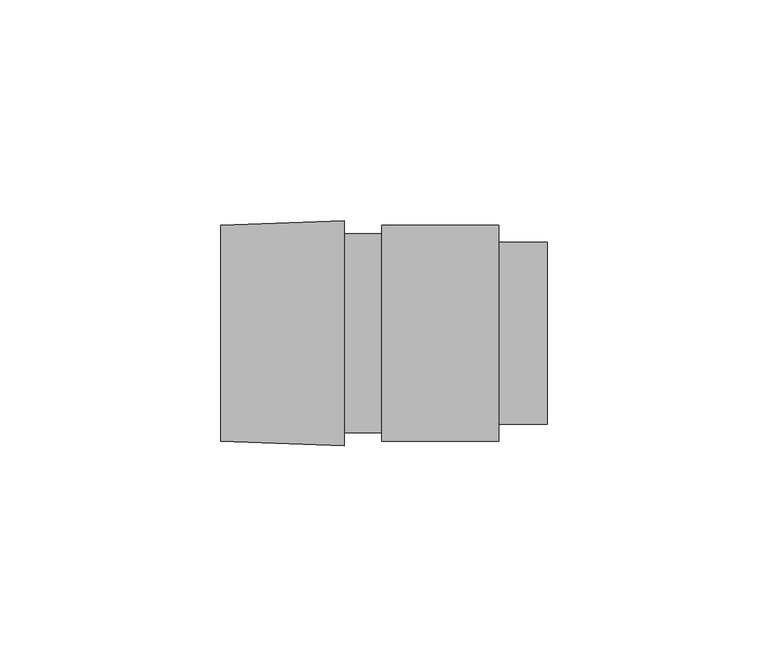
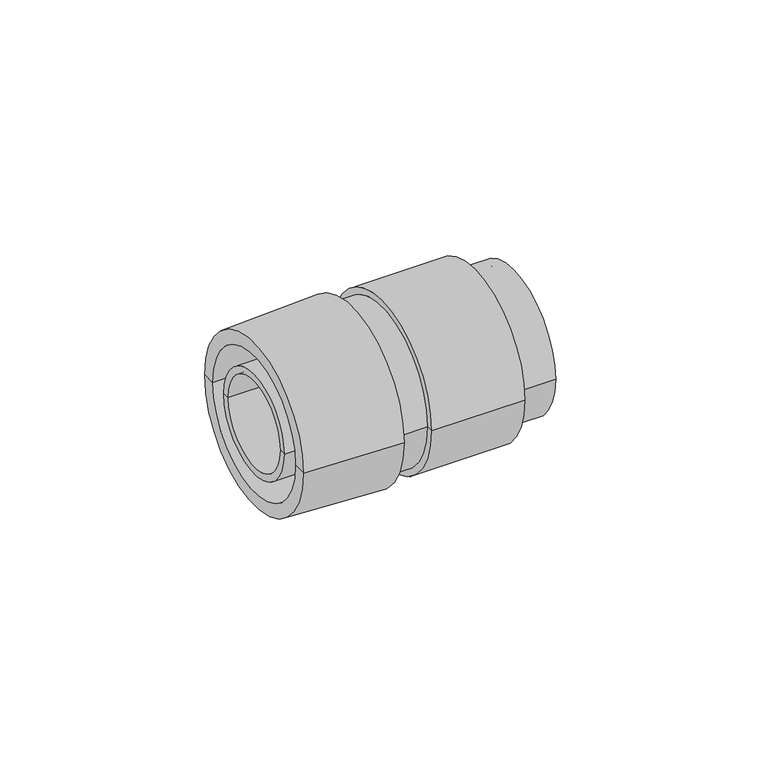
"""IFC4 building model written with IfcOpenShell, lengths in millimetres: cable carrier fitting geometry, КНС_ПереходникАрмированнаяТрубаКоробка_IP65_DKC : Коробка."""

from ifc_helpers import new_model, si_unit, frame, origin, place, context, project, spatial, polyline, circle_curve, source, transform, mapped, element, save
from ifc_brep_helpers import plane_surface, cylinder_surface, revolved_surface, advanced_brep


def cable_carrier_fitting_9b3bb634(model_context):
    return source(origin(), model_context, "Body", "AdvancedBrep", [
        advanced_brep(
        [(46.0, -18.5353846, 0.0), (46.0, 18.5353846, 0.0), (0.0, 18.5353846, 0.0), (0.0, -18.5353846, 0.0), (46.0, -20.6, 0.0), (46.0, 20.6, 0.0), (35.0, -20.6, 0.0), (35.0, 20.6, 0.0), (35.0, -24.5, 0.0), (35.0, 24.5, 0.0), (8.5, -24.5, 0.0), (8.5, 24.5, 0.0), (8.5, -22.55, 0.0), (8.5, 22.55, 0.0), (0.0, -22.55, 0.0), (0.0, 22.55, 0.0)],
        [
            (0, 1, circle_curve(frame((46.0, 0.0, 0.0), z_axis=(1.0, 0.0, 0.0), x_axis=(0.0, 1.0, 0.0)), 18.5353846)),
            (1, 2),
            (2, 3, circle_curve(frame((0.0, 0.0, 0.0), z_axis=(-1.0, 0.0, 0.0), x_axis=(0.0, 1.0, 0.0)), 18.5353846)),
            (3, 0),
            (1, 0, circle_curve(frame((46.0, 0.0, 0.0), z_axis=(1.0, 0.0, 0.0), x_axis=(0.0, 1.0, 0.0)), 18.5353846)),
            (3, 2, circle_curve(frame((0.0, 0.0, 0.0), z_axis=(-1.0, 0.0, 0.0), x_axis=(0.0, 1.0, 0.0)), 18.5353846)),
            (4, 5, circle_curve(frame((46.0, 0.0, 0.0), z_axis=(1.0, 0.0, 0.0), x_axis=(0.0, 1.0, 0.0)), 20.6)),
            (5, 1),
            (0, 4),
            (5, 4, circle_curve(frame((46.0, 0.0, 0.0), z_axis=(1.0, 0.0, 0.0), x_axis=(0.0, 1.0, 0.0)), 20.6)),
            (6, 7, circle_curve(frame((35.0, 0.0, 0.0), z_axis=(1.0, 0.0, 0.0), x_axis=(0.0, 1.0, 0.0)), 20.6)),
            (7, 5),
            (4, 6),
            (7, 6, circle_curve(frame((35.0, 0.0, 0.0), z_axis=(1.0, 0.0, 0.0), x_axis=(0.0, 1.0, 0.0)), 20.6)),
            (8, 9, circle_curve(frame((35.0, 0.0, 0.0), z_axis=(1.0, 0.0, 0.0), x_axis=(0.0, 1.0, 0.0)), 24.5)),
            (9, 7),
            (6, 8),
            (9, 8, circle_curve(frame((35.0, 0.0, 0.0), z_axis=(1.0, 0.0, 0.0), x_axis=(0.0, 1.0, 0.0)), 24.5)),
            (10, 11, circle_curve(frame((8.5, 0.0, 0.0), z_axis=(1.0, 0.0, 0.0), x_axis=(0.0, 1.0, 0.0)), 24.5)),
            (11, 9),
            (8, 10),
            (11, 10, circle_curve(frame((8.5, 0.0, 0.0), z_axis=(1.0, 0.0, 0.0), x_axis=(0.0, 1.0, 0.0)), 24.5)),
            (12, 13, circle_curve(frame((8.5, 0.0, 0.0), z_axis=(1.0, 0.0, 0.0), x_axis=(0.0, 1.0, 0.0)), 22.55)),
            (13, 11),
            (10, 12),
            (13, 12, circle_curve(frame((8.5, 0.0, 0.0), z_axis=(1.0, 0.0, 0.0), x_axis=(0.0, 1.0, 0.0)), 22.55)),
            (14, 15, circle_curve(frame((0.0, 0.0, 0.0), z_axis=(1.0, 0.0, 0.0), x_axis=(0.0, 1.0, 0.0)), 22.55)),
            (15, 13),
            (12, 14),
            (15, 14, circle_curve(frame((0.0, 0.0, 0.0), z_axis=(1.0, 0.0, 0.0), x_axis=(0.0, 1.0, 0.0)), 22.55)),
            (2, 15),
            (14, 3),
        ],
        [
            revolved_surface(polyline([(0.0, 18.5353846, 0.0), (46.0, 18.5353846, 0.0)]), (1534.5, 0.0, 0.0), (-1.0, 0.0, 0.0)),
            plane_surface(frame((46.0, 0.0, 0.0), z_axis=(1.0, 0.0, 0.0), x_axis=(0.0, 1.0, 0.0))),
            cylinder_surface(frame((1534.5, 0.0, 0.0), z_axis=(-1.0, 0.0, 0.0), x_axis=(0.0, 1.0, 0.0)), 20.6),
            plane_surface(frame((35.0, 0.0, 0.0), z_axis=(1.0, 0.0, 0.0), x_axis=(0.0, 1.0, 0.0))),
            cylinder_surface(frame((1534.5, 0.0, 0.0), z_axis=(-1.0, 0.0, 0.0), x_axis=(0.0, 1.0, 0.0)), 24.5),
            plane_surface(frame((8.5, 0.0, 0.0), z_axis=(-1.0, 0.0, 0.0), x_axis=(0.0, 1.0, 0.0))),
            cylinder_surface(frame((1534.5, 0.0, 0.0), z_axis=(-1.0, 0.0, 0.0), x_axis=(0.0, 1.0, 0.0)), 22.55),
            plane_surface(frame((0.0, 0.0, 0.0), z_axis=(-1.0, 0.0, 0.0), x_axis=(0.0, 1.0, 0.0))),
        ],
        [
            (0, [[1, 2, 3, 4]]),
            (0, [[5, -4, 6, -2]]),
            (1, [[7, 8, -1, 9]]),
            (1, [[10, -9, -5, -8]]),
            (2, [[11, 12, -7, 13]]),
            (2, [[14, -13, -10, -12]]),
            (3, [[15, 16, -11, 17]]),
            (3, [[18, -17, -14, -16]]),
            (4, [[19, 20, -15, 21]]),
            (4, [[22, -21, -18, -20]]),
            (5, [[23, 24, -19, 25]]),
            (5, [[26, -25, -22, -24]]),
            (6, [[27, 28, -23, 29]]),
            (6, [[30, -29, -26, -28]]),
            (7, [[-3, 31, -27, 32]]),
            (7, [[-6, -32, -30, -31]]),
        ],
    ),
        advanced_brep(
        [(0.0, -25.5, 0.0), (0.0, 25.5, 0.0), (0.0, 20.6, 0.0), (0.0, -20.6, 0.0), (-28.0, -24.5, 0.0), (-28.0, 24.5, 0.0), (-28.0, -20.6, 0.0), (-28.0, 20.6, 0.0)],
        [
            (0, 1, circle_curve(frame((0.0, 0.0, 0.0), z_axis=(1.0, 0.0, 0.0), x_axis=(0.0, 1.0, 0.0)), 25.5)),
            (1, 2),
            (2, 3, circle_curve(frame((0.0, 0.0, 0.0), z_axis=(-1.0, 0.0, 0.0), x_axis=(0.0, 1.0, 0.0)), 20.6)),
            (3, 0),
            (1, 0, circle_curve(frame((0.0, 0.0, 0.0), z_axis=(1.0, 0.0, 0.0), x_axis=(0.0, 1.0, 0.0)), 25.5)),
            (3, 2, circle_curve(frame((0.0, 0.0, 0.0), z_axis=(-1.0, 0.0, 0.0), x_axis=(0.0, 1.0, 0.0)), 20.6)),
            (4, 5, circle_curve(frame((-28.0, 0.0, 0.0), z_axis=(1.0, 0.0, 0.0), x_axis=(0.0, 1.0, 0.0)), 24.5)),
            (5, 1),
            (0, 4),
            (5, 4, circle_curve(frame((-28.0, 0.0, 0.0), z_axis=(1.0, 0.0, 0.0), x_axis=(0.0, 1.0, 0.0)), 24.5)),
            (6, 7, circle_curve(frame((-28.0, 0.0, 0.0), z_axis=(1.0, 0.0, 0.0), x_axis=(0.0, 1.0, 0.0)), 20.6)),
            (7, 5),
            (4, 6),
            (7, 6, circle_curve(frame((-28.0, 0.0, 0.0), z_axis=(1.0, 0.0, 0.0), x_axis=(0.0, 1.0, 0.0)), 20.6)),
            (2, 7),
            (6, 3),
        ],
        [
            plane_surface(frame((0.0, 0.0, 0.0), z_axis=(1.0, 0.0, 0.0), x_axis=(0.0, 1.0, 0.0))),
            revolved_surface(polyline([(0.0, 25.5, 0.0), (-28.0, 24.5, 0.0)]), (1534.5, 0.0, 0.0), (-1.0, 0.0, 0.0)),
            plane_surface(frame((-28.0, 0.0, 0.0), z_axis=(-1.0, 0.0, 0.0), x_axis=(0.0, 1.0, 0.0))),
            revolved_surface(polyline([(-28.0, 20.6, 0.0), (0.0, 20.6, 0.0)]), (1534.5, 0.0, 0.0), (-1.0, 0.0, 0.0)),
        ],
        [
            (0, [[1, 2, 3, 4]]),
            (0, [[5, -4, 6, -2]]),
            (1, [[7, 8, -1, 9]]),
            (1, [[10, -9, -5, -8]]),
            (2, [[11, 12, -7, 13]]),
            (2, [[14, -13, -10, -12]]),
            (3, [[-3, 15, -11, 16]]),
            (3, [[-6, -16, -14, -15]]),
        ],
    ),
        advanced_brep(
        [(-28.0, -15.0, 0.0), (-28.0, 15.0, 0.0), (0.0, 15.0, 0.0), (0.0, -15.0, 0.0), (-28.0, -13.0, 0.0), (-28.0, 13.0, 0.0), (0.0, -13.0, 0.0), (0.0, 13.0, 0.0)],
        [
            (0, 1, circle_curve(frame((-28.0, 0.0, 0.0), z_axis=(1.0, 0.0, 0.0), x_axis=(0.0, 1.0, 0.0)), 15.0)),
            (1, 2),
            (2, 3, circle_curve(frame((0.0, 0.0, 0.0), z_axis=(-1.0, 0.0, 0.0), x_axis=(0.0, 1.0, 0.0)), 15.0)),
            (3, 0),
            (1, 0, circle_curve(frame((-28.0, 0.0, 0.0), z_axis=(1.0, 0.0, 0.0), x_axis=(0.0, 1.0, 0.0)), 15.0)),
            (3, 2, circle_curve(frame((0.0, 0.0, 0.0), z_axis=(-1.0, 0.0, 0.0), x_axis=(0.0, 1.0, 0.0)), 15.0)),
            (4, 5, circle_curve(frame((-28.0, 0.0, 0.0), z_axis=(1.0, 0.0, 0.0), x_axis=(0.0, 1.0, 0.0)), 13.0)),
            (5, 1),
            (0, 4),
            (5, 4, circle_curve(frame((-28.0, 0.0, 0.0), z_axis=(1.0, 0.0, 0.0), x_axis=(0.0, 1.0, 0.0)), 13.0)),
            (6, 7, circle_curve(frame((0.0, 0.0, 0.0), z_axis=(1.0, 0.0, 0.0), x_axis=(0.0, 1.0, 0.0)), 13.0)),
            (7, 5),
            (4, 6),
            (7, 6, circle_curve(frame((0.0, 0.0, 0.0), z_axis=(1.0, 0.0, 0.0), x_axis=(0.0, 1.0, 0.0)), 13.0)),
            (2, 7),
            (6, 3),
        ],
        [
            cylinder_surface(frame((1534.5, 0.0, 0.0), z_axis=(-1.0, 0.0, 0.0), x_axis=(0.0, 1.0, 0.0)), 15.0),
            plane_surface(frame((-28.0, 0.0, 0.0), z_axis=(-1.0, 0.0, 0.0), x_axis=(0.0, 1.0, 0.0))),
            revolved_surface(polyline([(-28.0, 13.0, 0.0), (0.0, 13.0, 0.0)]), (1534.5, 0.0, 0.0), (-1.0, 0.0, 0.0)),
            plane_surface(frame((0.0, 0.0, 0.0), z_axis=(1.0, 0.0, 0.0), x_axis=(0.0, 1.0, 0.0))),
        ],
        [
            (0, [[1, 2, 3, 4]]),
            (0, [[5, -4, 6, -2]]),
            (1, [[7, 8, -1, 9]]),
            (1, [[10, -9, -5, -8]]),
            (2, [[11, 12, -7, 13]]),
            (2, [[14, -13, -10, -12]]),
            (3, [[-3, 15, -11, 16]]),
            (3, [[-6, -16, -14, -15]]),
        ],
    ),
    ])


if __name__ == "__main__":
    model = new_model("IFC4")
    model_context = context("Model", 3, world=origin())
    ifc_project = project(units=[si_unit("LENGTHUNIT", "METRE", prefix="MILLI")], contexts=[model_context])
    site = spatial("IfcSite", under=ifc_project)
    building = spatial("IfcBuilding", under=site)
    placement = place(None, origin())
    cable_carrier_fitting_shape = cable_carrier_fitting_9b3bb634(model_context)
    element("IfcCableCarrierFitting", 1, ObjectType="КНС_ПереходникАрмированнаяТрубаКоробка_IP65_DKC : Коробка", at=placement, inside=building, context=model_context, shape_type="MappedRepresentation", body=[
        mapped(cable_carrier_fitting_shape, transform((0.0, 0.0, 0.0), x_axis=(1.0, 0.0, 0.0), y_axis=(0.0, 1.0, 0.0), z_axis=(0.0, 0.0, 1.0))),
    ])
    save(model, "model.ifc")
